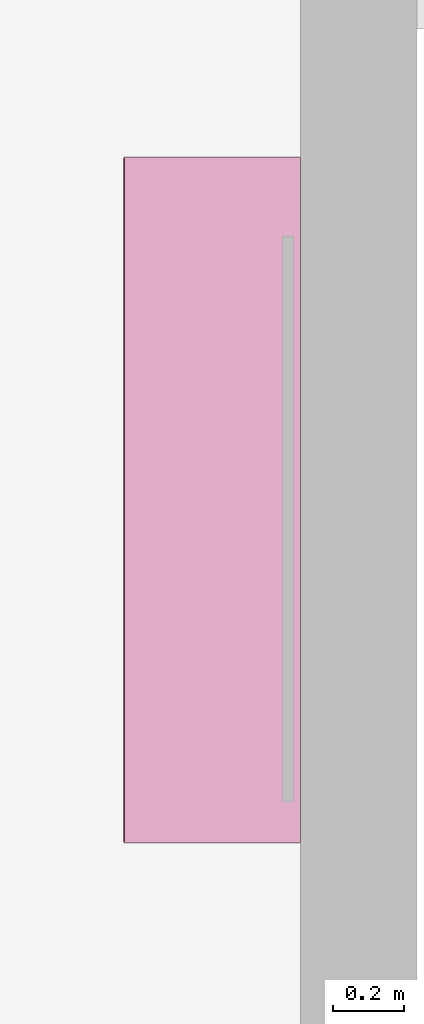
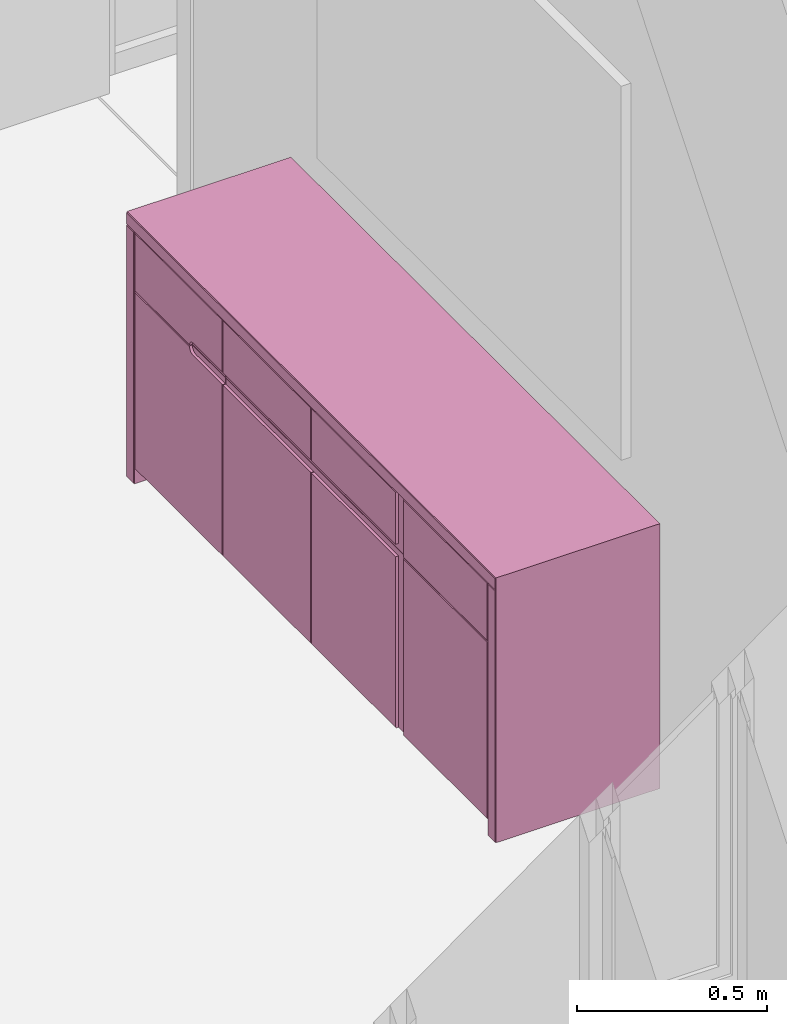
# One storey, part 35 of 40: 1 furnishing.
"""IFC2X3 building model written with IfcOpenShell, lengths in metres."""

import ifcopenshell
import ifcopenshell.guid

model = None  # the IFC model being written
_history = None  # IfcOwnerHistory: only IFC2X3 demands one
_inside = {}  # id of a spatial element -> (the spatial element, [elements in it])
_under = {}  # id of a project, library or spatial element -> (it, [spatial elements below it])
_declared = {}  # id of a project -> (the project, [libraries it declares])
_typed = {}  # id of a type object -> (the type object, [elements of that type])
_made_of = {}  # id of a material, layer set ... -> (it, [elements and type objects made of it])


def new_model(schema):
    """Start an empty IFC model of exactly this schema.

    Asked for "IFC4X3", IfcOpenShell would pick the latest addendum, in which some entities
    have other attributes; the version numbers below select the first issue.
    IFC2X3 requires an IfcOwnerHistory on every rooted entity: one is made here for all.
    """
    global model, _history
    if schema == "IFC4X3":
        model = ifcopenshell.file(schema_version=(4, 3, 0, 0))
    else:
        model = ifcopenshell.file(schema=schema)
    _inside.clear()
    _under.clear()
    _declared.clear()
    _typed.clear()
    _made_of.clear()
    _history = None
    if model.schema == "IFC2X3":
        org = make("IfcOrganization", Name="unknown")
        user = make(
            "IfcPersonAndOrganization",
            ThePerson=make("IfcPerson", FamilyName="unknown"),
            TheOrganization=org,
        )
        app = make(
            "IfcApplication",
            ApplicationDeveloper=org,
            Version="unknown",
            ApplicationFullName="unknown",
            ApplicationIdentifier="unknown",
        )
        _history = make(
            "IfcOwnerHistory",
            OwningUser=user,
            OwningApplication=app,
            ChangeAction="ADDED",
            CreationDate=0,
        )
    return model


def make(cls, **values):
    """One entity of the class cls with the attributes given. An attribute that is None is left unset."""
    return model.create_entity(
        cls, **{name: value for name, value in values.items() if value is not None}
    )


def entity(cls, *values):
    """Any entity or typed value of the class cls, its attributes in the order of the schema. None: left unset."""
    e = model.create_entity(cls)
    for i, value in enumerate(values):
        if value is not None:
            e[i] = value
    return e


def rooted(cls, **values):
    """An entity with a GlobalId (a new one), such as an element, a storey or a relation."""
    return make(cls, GlobalId=ifcopenshell.guid.new(), OwnerHistory=_history, **values)


def si_unit(unit_type, name, prefix=None):
    """IfcSIUnit, for example si_unit("LENGTHUNIT", "METRE", prefix="MILLI")."""
    return make("IfcSIUnit", UnitType=unit_type, Prefix=prefix, Name=name)


def converted_unit(unit_type, name, factor, base, dimensions=None, offset=None):
    """IfcConversionBasedUnit, such as the inch: factor (a typed value) times the base unit."""
    return make(
        "IfcConversionBasedUnit"
        if offset is None
        else "IfcConversionBasedUnitWithOffset",
        ConversionOffset=offset,
        Dimensions=None
        if dimensions is None
        else entity("IfcDimensionalExponents", *dimensions),
        UnitType=unit_type,
        Name=name,
        ConversionFactor=make(
            "IfcMeasureWithUnit", ValueComponent=factor, UnitComponent=base
        ),
    )


def derived_unit(unit_type, elements):
    """IfcDerivedUnit: a product of units, each with its exponent."""
    return make(
        "IfcDerivedUnit",
        Elements=[
            make("IfcDerivedUnitElement", Unit=unit, Exponent=power)
            for unit, power in elements
        ],
        UnitType=unit_type,
    )


def assignment(units):
    """IfcUnitAssignment: the units of a project."""
    return None if units is None else make("IfcUnitAssignment", Units=units)


def point(xyz):
    """IfcCartesianPoint."""
    return None if xyz is None else make("IfcCartesianPoint", Coordinates=xyz)


def direction(xyz):
    """IfcDirection."""
    return None if xyz is None else make("IfcDirection", DirectionRatios=xyz)


def frame(location, z_axis=None, x_axis=None):
    """IfcAxis2Placement3D, a coordinate frame: its origin and axes. An axis left out is left unset."""
    return make(
        "IfcAxis2Placement3D",
        Location=point(location),
        Axis=direction(z_axis),
        RefDirection=direction(x_axis),
    )


def origin():
    """The frame at (0, 0, 0) with its axes left unset."""
    return frame((0.0, 0.0, 0.0))


def place(relative_to, where):
    """IfcLocalPlacement: puts the frame where relative to a parent placement (None: the world)."""
    return make(
        "IfcLocalPlacement", PlacementRelTo=relative_to, RelativePlacement=where
    )


def context(
    kind, dimensions, precision=None, world=None, true_north=None, identifier=None
):
    """IfcGeometricRepresentationContext, for example the 3D "Model" context."""
    return make(
        "IfcGeometricRepresentationContext",
        ContextIdentifier=identifier,
        ContextType=kind,
        CoordinateSpaceDimension=dimensions,
        Precision=precision,
        WorldCoordinateSystem=world,
        TrueNorth=true_north,
    )


def subcontext(parent, identifier, kind, view, scale=None):
    """IfcGeometricRepresentationSubContext, for example "Body" below "Model"."""
    return make(
        "IfcGeometricRepresentationSubContext",
        ContextIdentifier=identifier,
        ContextType=kind,
        ParentContext=parent,
        TargetScale=scale,
        TargetView=view,
    )


def project(units=None, contexts=None):
    """IfcProject with its units and contexts."""
    return rooted(
        "IfcProject",
        Name="project",
        RepresentationContexts=contexts,
        UnitsInContext=assignment(units),
    )


def spatial(cls, under=None, at=None, **own):
    """A site, building, storey or space (cls), placed at a placement, below another one or the project."""
    s = rooted(cls, ObjectPlacement=at, **own)
    if under is not None:
        _under.setdefault(under.id(), (under, []))[1].append(s)
    return s


def faces_of(points, faces, orient=None, outer=None):
    """IfcFace entities. A face is a list of loops; a loop is a list of indices into points, from 0.

    orient and outer hold one flag for each loop. By default every Orientation is true, the
    first loop of a face is its IfcFaceOuterBound and the others are IfcFaceBound.
    """
    made = []
    for i, loops in enumerate(faces):
        bounds = []
        for j, loop in enumerate(loops):
            is_outer = j == 0 if outer is None else outer[i][j]
            bounds.append(
                make(
                    "IfcFaceOuterBound" if is_outer else "IfcFaceBound",
                    Bound=make("IfcPolyLoop", Polygon=[points[k] for k in loop]),
                    Orientation=True if orient is None else orient[i][j],
                )
            )
        made.append(make("IfcFace", Bounds=bounds))
    return made


def faceted_brep(points, faces, orient=None, outer=None, voids=None):
    """IfcFacetedBrep: a solid bounded by flat faces; with voids (closed shells), ...WithVoids."""
    shared = [point(p) for p in points]
    hull = make("IfcClosedShell", CfsFaces=faces_of(shared, faces, orient, outer))
    if voids is None:
        return make("IfcFacetedBrep", Outer=hull)
    return make(
        "IfcFacetedBrepWithVoids",
        Outer=hull,
        Voids=[
            make(cls, CfsFaces=faces_of(shared, fs, o, b)) for cls, fs, o, b in voids
        ],
    )


def shape(context_of_items, identifier, shape_type, items):
    """IfcShapeRepresentation: the items that make up one representation, for example the "Body"."""
    return make(
        "IfcShapeRepresentation",
        ContextOfItems=context_of_items,
        RepresentationIdentifier=identifier,
        RepresentationType=shape_type,
        Items=items,
    )


def source(mapping_origin, context_of_items, identifier, shape_type, items):
    """IfcRepresentationMap: a shape defined once, which mapped items show again and again."""
    return make(
        "IfcRepresentationMap",
        MappingOrigin=mapping_origin,
        MappedRepresentation=shape(context_of_items, identifier, shape_type, items),
    )


def transform(
    local_origin,
    x_axis=None,
    y_axis=None,
    z_axis=None,
    scale=None,
    scale2=None,
    scale3=None,
    uniform=True,
):
    """IfcCartesianTransformationOperator3D, or its non-uniform kind. x_axis, y_axis, z_axis: its Axis1, 2, 3."""
    if uniform:
        return make(
            "IfcCartesianTransformationOperator3D",
            Axis1=direction(x_axis),
            Axis2=direction(y_axis),
            LocalOrigin=point(local_origin),
            Scale=scale,
            Axis3=direction(z_axis),
        )
    return make(
        "IfcCartesianTransformationOperator3DnonUniform",
        Axis1=direction(x_axis),
        Axis2=direction(y_axis),
        LocalOrigin=point(local_origin),
        Scale=scale,
        Axis3=direction(z_axis),
        Scale2=scale2,
        Scale3=scale3,
    )


def mapped(mapping_source, mapping_target):
    """IfcMappedItem: shows the shape of a source again, moved by a transform."""
    return make(
        "IfcMappedItem", MappingSource=mapping_source, MappingTarget=mapping_target
    )


def material(Name=None, Category=None):
    """IfcMaterial."""
    return make("IfcMaterial", Name=Name, Category=Category)


def material_list(materials):
    """IfcMaterialList."""
    return make("IfcMaterialList", Materials=materials)


def made_of(thing, what):
    """Note that an element or type object is made of a material, layer set ...; save() writes the relation."""
    if what is not None:
        _made_of.setdefault(what.id(), (what, []))[1].append(thing)
    return thing


def type_object(cls, material=None, **own):
    """A type object (cls), such as IfcWallType, which elements share."""
    return made_of(rooted(cls, **own), material)


def type_shapes(of_type, sources):
    """Give a type object the sources (RepresentationMaps) that its elements show as mapped items."""
    of_type.RepresentationMaps = sources


def element(
    cls,
    number,
    at=None,
    inside=None,
    cuts=None,
    type_object=None,
    material=None,
    context=None,
    identifier="Body",
    shape_type=None,
    held_by="IfcProductDefinitionShape",
    body=None,
    shapes=None,
    **own,
):
    """One element of the class cls, such as IfcWall. Its Tag is "e" and its number.

    at: its placement. inside: the storey or other place that contains it. cuts: it is an
    opening in that element (IfcRelVoidsElement). A single representation is given by context,
    identifier, shape_type and body (its items); several are given by shapes. held_by: the class
    of the entity that holds the representations. save() writes the other relations.
    """
    e = rooted(cls, Tag="e%d" % number, ObjectPlacement=at, **own)
    if body is not None:
        shapes = [shape(context, identifier, shape_type, body)]
    if shapes is not None:
        e.Representation = make(held_by, Representations=shapes)
    if inside is not None:
        _inside.setdefault(inside.id(), (inside, []))[1].append(e)
    if cuts is not None:
        rooted(
            "IfcRelVoidsElement", RelatingBuildingElement=cuts, RelatedOpeningElement=e
        )
    if type_object is not None:
        _typed.setdefault(type_object.id(), (type_object, []))[1].append(e)
    return made_of(e, material)


def aggregate(whole, parts):
    """IfcRelAggregates: a whole, such as a stair, and the parts it consists of."""
    return rooted("IfcRelAggregates", RelatingObject=whole, RelatedObjects=parts)


def save(model, path):
    """Write the relations noted so far, then the file.

    IfcRelAggregates (storeys below a building ...), IfcRelContainedInSpatialStructure (elements
    in a storey), IfcRelDefinesByType, IfcRelAssociatesMaterial and IfcRelDeclares: one each for
    every whole, place, type object, material and project.
    """
    for whole, parts in _under.values():
        aggregate(whole, parts)
    for where, things in _inside.values():
        rooted(
            "IfcRelContainedInSpatialStructure",
            RelatedElements=things,
            RelatingStructure=where,
        )
    for kind, things in _typed.values():
        rooted("IfcRelDefinesByType", RelatedObjects=things, RelatingType=kind)
    for what, things in _made_of.values():
        rooted("IfcRelAssociatesMaterial", RelatedObjects=things, RelatingMaterial=what)
    for by, libraries in _declared.values():
        rooted("IfcRelDeclares", RelatingContext=by, RelatedDefinitions=libraries)
    model.write(path)


model = new_model("IFC2X3")

# Units and contexts
model_context = context("Model", 3, precision=1e-05, world=origin(), true_north=direction((6.12303176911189e-17, 1.0)))
body_context = subcontext(model_context, "Body", "Model", "MODEL_VIEW")
ifc_project = project(units=[si_unit("LENGTHUNIT", "METRE"), si_unit("AREAUNIT", "SQUARE_METRE"), si_unit("VOLUMEUNIT", "CUBIC_METRE"), converted_unit("PLANEANGLEUNIT", "DEGREE", entity("IfcRatioMeasure", 0.0174532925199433), si_unit("PLANEANGLEUNIT", "RADIAN"), dimensions=[0, 0, 0, 0, 0, 0, 0]), si_unit("MASSUNIT", "GRAM", prefix="KILO"), derived_unit("MASSDENSITYUNIT", [(si_unit("MASSUNIT", "GRAM", prefix="KILO"), 1), (si_unit("LENGTHUNIT", "METRE"), -3)]), si_unit("TIMEUNIT", "SECOND"), si_unit("FREQUENCYUNIT", "HERTZ"), si_unit("THERMODYNAMICTEMPERATUREUNIT", "DEGREE_CELSIUS"), derived_unit("THERMALTRANSMITTANCEUNIT", [(si_unit("MASSUNIT", "GRAM", prefix="KILO"), 1), (si_unit("THERMODYNAMICTEMPERATUREUNIT", "KELVIN"), -1), (si_unit("TIMEUNIT", "SECOND"), -3)]), derived_unit("VOLUMETRICFLOWRATEUNIT", [(si_unit("LENGTHUNIT", "METRE"), 3), (si_unit("TIMEUNIT", "SECOND"), -1)]), si_unit("ELECTRICCURRENTUNIT", "AMPERE"), si_unit("ELECTRICVOLTAGEUNIT", "VOLT"), si_unit("POWERUNIT", "WATT"), si_unit("FORCEUNIT", "NEWTON", prefix="KILO"), si_unit("ILLUMINANCEUNIT", "LUX"), si_unit("LUMINOUSFLUXUNIT", "LUMEN"), si_unit("LUMINOUSINTENSITYUNIT", "CANDELA"), derived_unit("USERDEFINED", [(si_unit("MASSUNIT", "GRAM", prefix="KILO"), -1), (si_unit("LENGTHUNIT", "METRE"), -2), (si_unit("TIMEUNIT", "SECOND"), 3), (si_unit("LUMINOUSFLUXUNIT", "LUMEN"), 1)]), derived_unit("LINEARVELOCITYUNIT", [(si_unit("LENGTHUNIT", "METRE"), 1), (si_unit("TIMEUNIT", "SECOND"), -1)]), si_unit("PRESSUREUNIT", "PASCAL"), derived_unit("USERDEFINED", [(si_unit("LENGTHUNIT", "METRE"), -2), (si_unit("MASSUNIT", "GRAM", prefix="KILO"), 1), (si_unit("TIMEUNIT", "SECOND"), -2)])], contexts=[model_context])

# Site, building, storey, space
site_placement = place(None, origin())
site = spatial("IfcSite", under=ifc_project, at=site_placement, Name="Surface", CompositionType="ELEMENT")
building_placement = place(site_placement, origin())
building = spatial("IfcBuilding", under=site, at=building_placement, CompositionType="ELEMENT")
storey_placement = place(building_placement, origin())
storey = spatial("IfcBuildingStorey", under=building, at=storey_placement, Name="RDC", CompositionType="ELEMENT", Elevation=-1.0941605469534e-13)
space_placement = place(storey_placement, origin())
space = spatial("IfcSpace", under=storey, at=space_placement, Name="19", CompositionType="ELEMENT", InteriorOrExteriorSpace="INTERNAL")

# Furnishing
ifc_material_1 = material(Name="Noir - Laqué")
ifc_material_2 = material(Name="Rouge - Laqué")
ifc_material_list_1 = material_list([ifc_material_1, ifc_material_2])
ifc_material_list_2 = material_list([ifc_material_1, ifc_material_2])
furniture_type = type_object("IfcFurnitureType", Name="1940 x 500 x 850 mm", material=ifc_material_list_2)
shared_shape = source(origin(), body_context, "Body", "Brep", [
    faceted_brep([(0.929999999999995, -0.48, 0.0499999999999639), (0.929999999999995, -0.48, 0.0689999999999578), (-0.930000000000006, -0.48, 0.0689999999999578), (-0.930000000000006, -0.48, 0.0499999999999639), (0.929999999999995, 0.0, 0.0499999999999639), (-0.930000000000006, 0.0, 0.0499999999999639), (-0.930000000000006, 0.0, 0.0689999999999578), (0.929999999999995, 0.0, 0.0689999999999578)], [[[0, 1, 2, 3]], [[4, 5, 6, 7]], [[1, 0, 4, 7]], [[2, 1, 7, 6]], [[3, 2, 6, 5]], [[0, 3, 5, 4]]]),
    faceted_brep([(-0.466000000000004, -0.479999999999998, 0.619000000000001), (-0.466000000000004, -0.479999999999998, 0.0499999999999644), (-0.928500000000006, -0.479999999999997, 0.0499999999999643), (-0.928500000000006, -0.479999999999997, 0.619000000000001), (-0.639086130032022, -0.489999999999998, 0.614023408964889), (-0.639974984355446, -0.489999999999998, 0.619000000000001), (-0.639974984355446, -0.496878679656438, 0.619000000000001), (-0.639893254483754, -0.497942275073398, 0.617936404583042), (-0.636977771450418, -0.489999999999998, 0.609428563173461), (-0.638479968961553, -0.498999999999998, 0.612352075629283), (-0.639754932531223, -0.498999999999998, 0.616878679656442), (-0.636183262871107, -0.498999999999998, 0.608248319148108), (-0.633784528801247, -0.489999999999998, 0.605509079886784), (-0.629710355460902, -0.489999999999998, 0.602515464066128), (-0.632991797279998, -0.498999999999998, 0.604794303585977), (-0.629082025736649, -0.498999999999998, 0.602180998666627), (-0.625015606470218, -0.489999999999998, 0.600639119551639), (-0.624670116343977, -0.498999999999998, 0.600552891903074), (-0.620000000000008, -0.489999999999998, 0.600000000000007), (-0.620000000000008, -0.498999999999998, 0.600000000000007), (-0.466000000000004, -0.489999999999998, 0.600000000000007), (-0.466000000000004, -0.489999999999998, 0.619000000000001), (-0.926378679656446, -0.498999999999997, 0.616878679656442), (-0.926378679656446, -0.498999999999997, 0.052121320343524), (-0.468121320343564, -0.498999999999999, 0.052121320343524), (-0.468121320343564, -0.498999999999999, 0.600000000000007), (-0.466000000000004, -0.496878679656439, 0.0499999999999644), (-0.928500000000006, -0.496878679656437, 0.0499999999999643), (-0.928500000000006, -0.496878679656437, 0.619000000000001), (-0.466000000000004, -0.496878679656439, 0.600000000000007)], [[[0, 1, 2, 3]], [[4, 5, 6]], [[7, 4, 6]], [[8, 4, 9]], [[10, 4, 7]], [[9, 4, 10]], [[9, 11, 8]], [[11, 12, 8]], [[13, 12, 14]], [[15, 16, 13]], [[16, 17, 18]], [[15, 13, 14]], [[16, 15, 17]], [[18, 17, 19]], [[11, 14, 12]], [[12, 13, 16, 18, 20, 21, 5, 4, 8]], [[22, 23, 24, 25, 19, 17, 15, 14, 11, 9, 10]], [[2, 1, 26, 27]], [[3, 2, 27, 28]], [[0, 3, 28, 6, 5, 21]], [[1, 0, 21, 20, 29, 26]], [[24, 23, 27, 26]], [[29, 25, 24, 26]], [[22, 10, 7, 6, 28]], [[27, 23, 22, 28]], [[18, 19, 25, 29, 20]]]),
    faceted_brep([(0.928499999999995, -0.480000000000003, 0.0499999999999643), (0.465999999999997, -0.480000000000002, 0.0499999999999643), (0.465999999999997, -0.480000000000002, 0.619000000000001), (0.928499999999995, -0.480000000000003, 0.619000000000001), (0.928499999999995, -0.496878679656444, 0.0499999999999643), (0.484999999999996, -0.496878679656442, 0.0499999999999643), (0.484999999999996, -0.490000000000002, 0.0499999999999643), (0.465999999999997, -0.490000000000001, 0.0499999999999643), (0.465999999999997, -0.490000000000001, 0.619000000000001), (0.484999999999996, -0.490000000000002, 0.619000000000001), (0.484999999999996, -0.496878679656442, 0.619000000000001), (0.928499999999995, -0.496878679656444, 0.619000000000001), (0.926378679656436, -0.499000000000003, 0.0521213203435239), (0.484999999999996, -0.499000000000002, 0.0521213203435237), (0.926378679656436, -0.499000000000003, 0.616878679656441), (0.484999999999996, -0.499000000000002, 0.616878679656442)], [[[0, 1, 2, 3]], [[1, 0, 4, 5, 6, 7]], [[2, 1, 7, 8]], [[3, 2, 8, 9, 10, 11]], [[0, 3, 11, 4]], [[4, 12, 13, 5]], [[12, 4, 11, 14]], [[14, 11, 10, 15]], [[9, 6, 5, 13, 15, 10]], [[6, 9, 8, 7]], [[12, 14, 15, 13]]]),
    faceted_brep([(-0.464000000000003, -0.479999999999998, 0.0499999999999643), (-0.00100000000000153, -0.48, 0.0499999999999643), (-0.00100000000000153, -0.496878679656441, 0.0499999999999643), (-0.464000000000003, -0.496878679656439, 0.0499999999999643), (-0.464000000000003, -0.479999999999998, 0.619000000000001), (-0.464000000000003, -0.496878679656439, 0.600000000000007), (-0.464000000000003, -0.489999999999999, 0.600000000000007), (-0.464000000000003, -0.489999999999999, 0.619000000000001), (-0.00100000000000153, -0.48, 0.619000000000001), (-0.0010000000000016, -0.49, 0.619000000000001), (-0.00100000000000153, -0.49, 0.600000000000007), (-0.00100000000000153, -0.49687867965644, 0.600000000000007), (-0.00312132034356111, -0.499, 0.0521213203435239), (-0.461878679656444, -0.498999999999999, 0.0521213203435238), (-0.00312132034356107, -0.499, 0.600000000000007), (-0.461878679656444, -0.498999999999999, 0.600000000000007)], [[[0, 1, 2, 3]], [[4, 0, 3, 5, 6, 7]], [[8, 4, 7, 9]], [[1, 8, 9, 10, 11, 2]], [[2, 12, 13, 3]], [[12, 2, 11, 14]], [[3, 13, 15, 5]], [[10, 6, 5, 15, 14, 11]], [[6, 10, 9, 7]], [[1, 0, 4, 8]], [[13, 12, 14, 15]]]),
    faceted_brep([(0.000999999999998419, -0.48, 0.0499999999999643), (0.463999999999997, -0.480000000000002, 0.0499999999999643), (0.463999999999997, -0.490000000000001, 0.0499999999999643), (0.444999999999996, -0.490000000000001, 0.0499999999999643), (0.444999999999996, -0.496878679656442, 0.0499999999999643), (0.000999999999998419, -0.496878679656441, 0.0499999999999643), (0.000999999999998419, -0.48, 0.619000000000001), (0.00099999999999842, -0.49687867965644, 0.600000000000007), (0.00099999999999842, -0.49, 0.600000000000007), (0.00099999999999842, -0.49, 0.619000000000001), (0.463999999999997, -0.480000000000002, 0.619000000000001), (0.463999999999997, -0.490000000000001, 0.619000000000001), (0.00312132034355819, -0.499, 0.0521213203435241), (0.444999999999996, -0.499000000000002, 0.0521213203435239), (0.00312132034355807, -0.499, 0.600000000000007), (0.444999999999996, -0.490000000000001, 0.600000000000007), (0.444999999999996, -0.499000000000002, 0.600000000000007)], [[[0, 1, 2, 3, 4, 5]], [[6, 0, 5, 7, 8, 9]], [[10, 6, 9, 11]], [[1, 10, 11, 2]], [[12, 5, 4, 13]], [[5, 12, 14, 7]], [[3, 15, 16, 13, 4]], [[15, 8, 7, 14, 16]], [[8, 15, 3, 2, 11, 9]], [[1, 0, 6, 10]], [[12, 13, 16, 14]]]),
    faceted_brep([(-0.926378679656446, -0.498999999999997, 0.623121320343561), (-0.639754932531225, -0.498999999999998, 0.62312132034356), (-0.638479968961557, -0.498999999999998, 0.627647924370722), (-0.636183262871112, -0.498999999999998, 0.6317516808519), (-0.632991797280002, -0.498999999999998, 0.635205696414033), (-0.629082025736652, -0.498999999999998, 0.637819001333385), (-0.624670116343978, -0.498999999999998, 0.639447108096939), (-0.620000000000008, -0.498999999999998, 0.640000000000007), (-0.468121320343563, -0.498999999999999, 0.640000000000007), (-0.468121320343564, -0.498999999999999, 0.806378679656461), (-0.926378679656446, -0.498999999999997, 0.806378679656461), (-0.466000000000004, -0.479999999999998, 0.808500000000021), (-0.466000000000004, -0.479999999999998, 0.621000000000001), (-0.928500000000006, -0.479999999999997, 0.621000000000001), (-0.928500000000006, -0.479999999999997, 0.808500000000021), (-0.624315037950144, -0.489999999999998, 0.63952896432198), (-0.628422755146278, -0.489999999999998, 0.638139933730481), (-0.632134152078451, -0.489999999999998, 0.635898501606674), (-0.635274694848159, -0.489999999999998, 0.632910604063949), (-0.637697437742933, -0.489999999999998, 0.62931668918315), (-0.639289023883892, -0.489999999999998, 0.625285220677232), (-0.639974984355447, -0.489999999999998, 0.621000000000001), (-0.466000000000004, -0.489999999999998, 0.621000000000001), (-0.466000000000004, -0.489999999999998, 0.640000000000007), (-0.620000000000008, -0.489999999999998, 0.640000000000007), (-0.466000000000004, -0.496878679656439, 0.640000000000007), (-0.639974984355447, -0.496878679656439, 0.621000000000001), (-0.928500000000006, -0.496878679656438, 0.621000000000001), (-0.928500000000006, -0.496878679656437, 0.808500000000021), (-0.466000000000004, -0.496878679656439, 0.808500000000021), (-0.639893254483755, -0.497942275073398, 0.62206359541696)], [[[0, 1, 2, 3, 4, 5, 6, 7, 8, 9, 10]], [[11, 12, 13, 14]], [[15, 16, 17, 18, 19, 20, 21, 22, 23, 24]], [[24, 23, 25, 8, 7]], [[13, 12, 22, 21, 26, 27]], [[14, 13, 27, 28]], [[11, 14, 28, 29]], [[12, 11, 29, 25, 23, 22]], [[26, 30, 1, 0, 27]], [[9, 8, 25, 29]], [[28, 10, 9, 29]], [[27, 0, 10, 28]], [[15, 24, 7]], [[6, 16, 15]], [[16, 5, 17]], [[6, 15, 7]], [[16, 6, 5]], [[17, 5, 4]], [[4, 18, 17]], [[19, 18, 3]], [[2, 20, 19]], [[20, 26, 21]], [[2, 19, 3]], [[2, 1, 20]], [[1, 30, 20]], [[20, 30, 26]], [[4, 3, 18]]]),
    faceted_brep([(-0.464000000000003, -0.479999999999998, 0.621000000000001), (-0.00100000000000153, -0.48, 0.621000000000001), (-0.00100000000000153, -0.49, 0.621000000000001), (-0.464000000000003, -0.489999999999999, 0.621000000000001), (-0.464000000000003, -0.479999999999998, 0.808500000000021), (-0.464000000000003, -0.489999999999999, 0.640000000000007), (-0.464000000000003, -0.496878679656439, 0.640000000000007), (-0.464000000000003, -0.496878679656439, 0.808500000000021), (-0.00100000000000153, -0.48, 0.808500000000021), (-0.0010000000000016, -0.49687867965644, 0.808500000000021), (-0.00100000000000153, -0.49687867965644, 0.640000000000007), (-0.00100000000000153, -0.49, 0.640000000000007), (-0.00312132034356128, -0.499, 0.806378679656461), (-0.00312132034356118, -0.499, 0.640000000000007), (-0.461878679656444, -0.498999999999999, 0.806378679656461), (-0.461878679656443, -0.498999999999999, 0.640000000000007)], [[[0, 1, 2, 3]], [[4, 0, 3, 5, 6, 7]], [[8, 4, 7, 9]], [[1, 8, 9, 10, 11, 2]], [[9, 12, 13, 10]], [[12, 9, 7, 14]], [[14, 7, 6, 15]], [[5, 11, 10, 13, 15, 6]], [[11, 5, 3, 2]], [[1, 0, 4, 8]], [[12, 14, 15, 13]]]),
    faceted_brep([(0.000999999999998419, -0.48, 0.621000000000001), (0.463999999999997, -0.480000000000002, 0.621000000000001), (0.463999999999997, -0.490000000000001, 0.621000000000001), (0.000999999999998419, -0.49, 0.621000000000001), (0.000999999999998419, -0.48, 0.808500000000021), (0.000999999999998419, -0.49, 0.640000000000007), (0.000999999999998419, -0.49687867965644, 0.640000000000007), (0.00099999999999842, -0.49687867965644, 0.808500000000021), (0.463999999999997, -0.480000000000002, 0.808500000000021), (0.444999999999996, -0.496878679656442, 0.808500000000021), (0.444999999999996, -0.490000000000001, 0.808500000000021), (0.463999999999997, -0.490000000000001, 0.808500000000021), (0.0031213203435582, -0.499, 0.806378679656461), (0.444999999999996, -0.499000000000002, 0.806378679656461), (0.00312132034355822, -0.499, 0.640000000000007), (0.444999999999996, -0.490000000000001, 0.640000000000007), (0.444999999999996, -0.499000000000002, 0.640000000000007)], [[[0, 1, 2, 3]], [[4, 0, 3, 5, 6, 7]], [[8, 4, 7, 9, 10, 11]], [[1, 8, 11, 2]], [[7, 12, 13, 9]], [[12, 7, 6, 14]], [[10, 15, 5, 3, 2, 11]], [[15, 10, 9, 13, 16]], [[5, 15, 16, 14, 6]], [[1, 0, 4, 8]], [[13, 12, 14, 16]]]),
    faceted_brep([(0.465999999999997, -0.480000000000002, 0.621000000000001), (0.928499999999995, -0.480000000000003, 0.621000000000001), (0.928499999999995, -0.496878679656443, 0.621000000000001), (0.484999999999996, -0.496878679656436, 0.621000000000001), (0.484999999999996, -0.490000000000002, 0.621000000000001), (0.465999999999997, -0.490000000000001, 0.621000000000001), (0.465999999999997, -0.480000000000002, 0.808500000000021), (0.465999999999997, -0.490000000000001, 0.808500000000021), (0.928499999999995, -0.480000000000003, 0.808500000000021), (0.484999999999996, -0.490000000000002, 0.808500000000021), (0.484999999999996, -0.496878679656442, 0.808500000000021), (0.928499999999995, -0.496878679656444, 0.808500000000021), (0.926378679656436, -0.499000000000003, 0.623121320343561), (0.484999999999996, -0.499000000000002, 0.623121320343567), (0.926378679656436, -0.499000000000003, 0.806378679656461), (0.484999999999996, -0.499000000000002, 0.806378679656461)], [[[0, 1, 2, 3, 4, 5]], [[6, 0, 5, 7]], [[8, 6, 7, 9, 10, 11]], [[1, 8, 11, 2]], [[2, 12, 13, 3]], [[12, 2, 11, 14]], [[14, 11, 10, 15]], [[9, 4, 3, 13, 15, 10]], [[4, 9, 7, 5]], [[1, 0, 6, 8]], [[12, 14, 15, 13]]]),
    faceted_brep([(0.929999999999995, -0.019, 0.0689999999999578), (0.929999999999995, -0.019, 0.810000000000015), (-0.930000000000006, -0.019, 0.810000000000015), (-0.930000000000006, -0.019, 0.0689999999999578), (0.929999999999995, 0.0, 0.0689999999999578), (-0.930000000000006, 0.0, 0.0689999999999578), (-0.930000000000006, 0.0, 0.810000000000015), (0.929999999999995, 0.0, 0.810000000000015)], [[[0, 1, 2, 3]], [[4, 5, 6, 7]], [[1, 0, 4, 7]], [[2, 1, 7, 6]], [[3, 2, 6, 5]], [[0, 3, 5, 4]]]),
    faceted_brep([(0.025, 0.0, 0.0499999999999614), (-0.025, 0.0, 0.0499999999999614), (-0.025, -0.45, 0.0499999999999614), (0.025, -0.45, 0.0499999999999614), (0.025, 0.0, 0.0), (0.025, -0.45, 0.0), (-0.025, -0.45, 0.0), (-0.025, 0.0, 0.0)], [[[0, 1, 2, 3]], [[4, 5, 6, 7]], [[1, 0, 4, 7]], [[2, 1, 7, 6]], [[3, 2, 6, 5]], [[0, 3, 5, 4]]]),
    faceted_brep([(0.97, 0.0, 0.810000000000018), (0.929999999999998, 0.0, 0.810000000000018), (0.929999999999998, -0.497878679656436, 0.810000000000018), (0.97, -0.497878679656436, 0.810000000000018), (0.929999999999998, 0.0, 0.0), (0.97, 0.0, 0.0), (0.97, -0.497878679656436, 0.0), (0.929999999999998, -0.497878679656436, 0.0), (0.932121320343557, -0.499999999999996, 0.00212132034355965), (0.96787867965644, -0.499999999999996, 0.00212132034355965), (0.967878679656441, -0.499999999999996, 0.807878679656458), (0.932121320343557, -0.499999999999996, 0.807878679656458)], [[[0, 1, 2, 3]], [[4, 5, 6, 7]], [[1, 0, 5, 4]], [[1, 4, 7, 2]], [[8, 9, 10, 11]], [[5, 0, 3, 6]], [[6, 9, 8, 7]], [[9, 6, 3, 10]], [[10, 3, 2, 11]], [[7, 8, 11, 2]]]),
    faceted_brep([(-0.930000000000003, 0.0, 0.0), (-0.930000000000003, 0.0, 0.810000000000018), (-0.930000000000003, -0.497878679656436, 0.810000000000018), (-0.930000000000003, -0.497878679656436, 0.0), (-0.969999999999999, 0.0, 0.810000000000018), (-0.969999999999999, 0.0, 0.0), (-0.969999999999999, -0.497878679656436, 0.0), (-0.969999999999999, -0.497878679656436, 0.810000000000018), (-0.96787867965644, -0.499999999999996, 0.00212132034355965), (-0.932121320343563, -0.499999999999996, 0.00212132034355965), (-0.932121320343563, -0.499999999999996, 0.807878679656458), (-0.96787867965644, -0.499999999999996, 0.807878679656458)], [[[0, 1, 2, 3]], [[4, 1, 0, 5]], [[4, 5, 6, 7]], [[8, 9, 10, 11]], [[3, 9, 8, 6]], [[9, 3, 2, 10]], [[10, 2, 7, 11]], [[6, 8, 11, 7]], [[5, 0, 3, 6]], [[1, 4, 7, 2]]]),
    faceted_brep([(-0.967878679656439, -0.5, 0.812121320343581), (0.96787867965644, -0.5, 0.812121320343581), (0.96787867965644, -0.5, 0.847878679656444), (-0.967878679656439, -0.5, 0.847878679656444), (0.97, 0.0, 0.850000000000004), (0.97, 0.0, 0.810000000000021), (-0.969999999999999, 0.0, 0.810000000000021), (-0.969999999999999, 0.0, 0.850000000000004), (-0.969999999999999, -0.49787867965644, 0.850000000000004), (0.97, -0.49787867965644, 0.850000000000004), (-0.969999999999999, -0.49787867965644, 0.810000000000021), (0.97, -0.49787867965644, 0.810000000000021)], [[[0, 1, 2, 3]], [[4, 5, 6, 7]], [[4, 7, 8, 9]], [[7, 6, 10, 8]], [[6, 5, 11, 10]], [[5, 4, 9, 11]], [[11, 1, 0, 10]], [[1, 11, 9, 2]], [[2, 9, 8, 3]], [[10, 0, 3, 8]]]),
])
type_shapes(furniture_type, [shared_shape])
furnishing_placement = place(space_placement, frame((9.4675111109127, 1.64488935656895, 0.0), z_axis=(0.0, 0.0, 1.0), x_axis=(0.0, -1.0, 0.0)))
element("IfcFurnishingElement", 1, at=furnishing_placement, inside=space, type_object=furniture_type, material=ifc_material_list_1, Name="Buffet:1940 x 500 x 850 mm", ObjectType="1940 x 500 x 850 mm", context=body_context, shape_type="MappedRepresentation", body=[
    mapped(shared_shape, transform((0.0, 0.0, 0.0), scale=1.0)),
])

save(model, "model.ifc")
